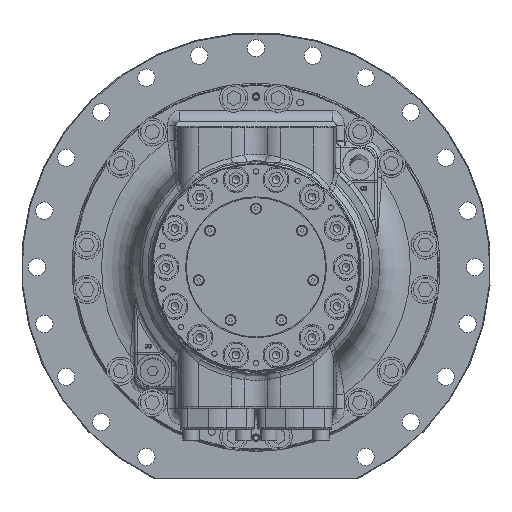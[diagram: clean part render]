
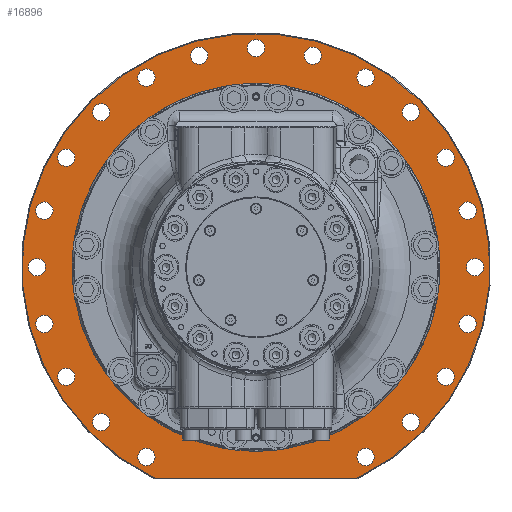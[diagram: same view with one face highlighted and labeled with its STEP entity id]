
A CAD part, left-side view. The second image highlights one B-rep face of the part: STEP entity #16896.
In plain terms, the highlighted planar face has unit normal (-1, 0, 0).
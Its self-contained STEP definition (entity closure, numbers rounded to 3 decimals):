
#10227=LINE('',#119309,#12905);
#12905=VECTOR('',#75439,1.);
#16896=ADVANCED_FACE('',(#20329,#20330,#20331,#20332,#20333,#20334,#20335,
#20336,#20337,#20338,#20339,#20340,#20341,#20342,#20343,#20344,#20345,#20346,
#20347,#20348,#20349,#20350,#20351),#18669,.F.);
#18669=PLANE('',#62187);
#20329=FACE_BOUND('',#24700,.T.);
#20330=FACE_BOUND('',#24701,.T.);
#20331=FACE_BOUND('',#24702,.T.);
#20332=FACE_BOUND('',#24703,.T.);
#20333=FACE_BOUND('',#24704,.T.);
#20334=FACE_BOUND('',#24705,.T.);
#20335=FACE_BOUND('',#24706,.T.);
#20336=FACE_BOUND('',#24707,.T.);
#20337=FACE_BOUND('',#24708,.T.);
#20338=FACE_BOUND('',#24709,.T.);
#20339=FACE_BOUND('',#24710,.T.);
#20340=FACE_BOUND('',#24711,.T.);
#20341=FACE_BOUND('',#24712,.T.);
#20342=FACE_BOUND('',#24713,.T.);
#20343=FACE_BOUND('',#24714,.T.);
#20344=FACE_BOUND('',#24715,.T.);
#20345=FACE_BOUND('',#24716,.T.);
#20346=FACE_BOUND('',#24717,.T.);
#20347=FACE_BOUND('',#24718,.T.);
#20348=FACE_BOUND('',#24719,.T.);
#20349=FACE_BOUND('',#24720,.T.);
#20350=FACE_BOUND('',#24721,.T.);
#20351=FACE_BOUND('',#24722,.T.);
#24700=EDGE_LOOP('',(#39829));
#24701=EDGE_LOOP('',(#39830));
#24702=EDGE_LOOP('',(#39831));
#24703=EDGE_LOOP('',(#39832));
#24704=EDGE_LOOP('',(#39833));
#24705=EDGE_LOOP('',(#39834));
#24706=EDGE_LOOP('',(#39835));
#24707=EDGE_LOOP('',(#39836));
#24708=EDGE_LOOP('',(#39837));
#24709=EDGE_LOOP('',(#39838));
#24710=EDGE_LOOP('',(#39839));
#24711=EDGE_LOOP('',(#39840));
#24712=EDGE_LOOP('',(#39841));
#24713=EDGE_LOOP('',(#39842));
#24714=EDGE_LOOP('',(#39843));
#24715=EDGE_LOOP('',(#39844));
#24716=EDGE_LOOP('',(#39845));
#24717=EDGE_LOOP('',(#39846));
#24718=EDGE_LOOP('',(#39847));
#24719=EDGE_LOOP('',(#39848));
#24720=EDGE_LOOP('',(#39849));
#24721=EDGE_LOOP('',(#39850));
#24722=EDGE_LOOP('',(#39851,#39852));
#39829=ORIENTED_EDGE('',*,*,#53007,.F.);
#39830=ORIENTED_EDGE('',*,*,#53006,.T.);
#39831=ORIENTED_EDGE('',*,*,#53005,.T.);
#39832=ORIENTED_EDGE('',*,*,#53004,.T.);
#39833=ORIENTED_EDGE('',*,*,#53003,.T.);
#39834=ORIENTED_EDGE('',*,*,#53002,.T.);
#39835=ORIENTED_EDGE('',*,*,#53001,.T.);
#39836=ORIENTED_EDGE('',*,*,#53000,.T.);
#39837=ORIENTED_EDGE('',*,*,#52999,.T.);
#39838=ORIENTED_EDGE('',*,*,#52998,.T.);
#39839=ORIENTED_EDGE('',*,*,#52997,.T.);
#39840=ORIENTED_EDGE('',*,*,#52996,.T.);
#39841=ORIENTED_EDGE('',*,*,#52995,.T.);
#39842=ORIENTED_EDGE('',*,*,#52994,.T.);
#39843=ORIENTED_EDGE('',*,*,#52993,.T.);
#39844=ORIENTED_EDGE('',*,*,#52992,.T.);
#39845=ORIENTED_EDGE('',*,*,#52991,.T.);
#39846=ORIENTED_EDGE('',*,*,#52990,.T.);
#39847=ORIENTED_EDGE('',*,*,#52989,.T.);
#39848=ORIENTED_EDGE('',*,*,#52988,.T.);
#39849=ORIENTED_EDGE('',*,*,#52987,.T.);
#39850=ORIENTED_EDGE('',*,*,#52986,.T.);
#39851=ORIENTED_EDGE('',*,*,#52985,.F.);
#39852=ORIENTED_EDGE('',*,*,#52984,.T.);
#45342=VERTEX_POINT('',#119301);
#45343=VERTEX_POINT('',#119306);
#45344=VERTEX_POINT('',#119312);
#45345=VERTEX_POINT('',#119315);
#45346=VERTEX_POINT('',#119318);
#45347=VERTEX_POINT('',#119321);
#45348=VERTEX_POINT('',#119324);
#45349=VERTEX_POINT('',#119327);
#45350=VERTEX_POINT('',#119330);
#45351=VERTEX_POINT('',#119333);
#45352=VERTEX_POINT('',#119336);
#45353=VERTEX_POINT('',#119339);
#45354=VERTEX_POINT('',#119342);
#45355=VERTEX_POINT('',#119345);
#45356=VERTEX_POINT('',#119348);
#45357=VERTEX_POINT('',#119351);
#45358=VERTEX_POINT('',#119354);
#45359=VERTEX_POINT('',#119357);
#45360=VERTEX_POINT('',#119360);
#45361=VERTEX_POINT('',#119363);
#45362=VERTEX_POINT('',#119366);
#45363=VERTEX_POINT('',#119369);
#45364=VERTEX_POINT('',#119372);
#45365=VERTEX_POINT('',#119375);
#52984=EDGE_CURVE('',#45342,#45343,#56848,.T.);
#52985=EDGE_CURVE('',#45342,#45343,#10227,.T.);
#52986=EDGE_CURVE('',#45344,#45344,#56849,.T.);
#52987=EDGE_CURVE('',#45345,#45345,#56850,.T.);
#52988=EDGE_CURVE('',#45346,#45346,#56851,.T.);
#52989=EDGE_CURVE('',#45347,#45347,#56852,.T.);
#52990=EDGE_CURVE('',#45348,#45348,#56853,.T.);
#52991=EDGE_CURVE('',#45349,#45349,#56854,.T.);
#52992=EDGE_CURVE('',#45350,#45350,#56855,.T.);
#52993=EDGE_CURVE('',#45351,#45351,#56856,.T.);
#52994=EDGE_CURVE('',#45352,#45352,#56857,.T.);
#52995=EDGE_CURVE('',#45353,#45353,#56858,.T.);
#52996=EDGE_CURVE('',#45354,#45354,#56859,.T.);
#52997=EDGE_CURVE('',#45355,#45355,#56860,.T.);
#52998=EDGE_CURVE('',#45356,#45356,#56861,.T.);
#52999=EDGE_CURVE('',#45357,#45357,#56862,.T.);
#53000=EDGE_CURVE('',#45358,#45358,#56863,.T.);
#53001=EDGE_CURVE('',#45359,#45359,#56864,.T.);
#53002=EDGE_CURVE('',#45360,#45360,#56865,.T.);
#53003=EDGE_CURVE('',#45361,#45361,#56866,.T.);
#53004=EDGE_CURVE('',#45362,#45362,#56867,.T.);
#53005=EDGE_CURVE('',#45363,#45363,#56868,.T.);
#53006=EDGE_CURVE('',#45364,#45364,#56869,.T.);
#53007=EDGE_CURVE('',#45365,#45365,#56870,.T.);
#56848=CIRCLE('',#62141,299.);
#56849=CIRCLE('',#62144,11.);
#56850=CIRCLE('',#62146,11.);
#56851=CIRCLE('',#62148,11.);
#56852=CIRCLE('',#62150,11.);
#56853=CIRCLE('',#62152,11.);
#56854=CIRCLE('',#62154,11.);
#56855=CIRCLE('',#62156,11.);
#56856=CIRCLE('',#62158,11.);
#56857=CIRCLE('',#62160,11.);
#56858=CIRCLE('',#62162,11.);
#56859=CIRCLE('',#62164,11.);
#56860=CIRCLE('',#62166,11.);
#56861=CIRCLE('',#62168,11.);
#56862=CIRCLE('',#62170,11.);
#56863=CIRCLE('',#62172,11.);
#56864=CIRCLE('',#62174,11.);
#56865=CIRCLE('',#62176,11.);
#56866=CIRCLE('',#62178,11.);
#56867=CIRCLE('',#62180,11.);
#56868=CIRCLE('',#62182,11.);
#56869=CIRCLE('',#62184,11.);
#56870=CIRCLE('',#62186,235.);
#62141=AXIS2_PLACEMENT_3D('',#119307,#75435,#75436);
#62144=AXIS2_PLACEMENT_3D('',#119311,#75442,#75443);
#62146=AXIS2_PLACEMENT_3D('',#119314,#75446,#75447);
#62148=AXIS2_PLACEMENT_3D('',#119317,#75450,#75451);
#62150=AXIS2_PLACEMENT_3D('',#119320,#75454,#75455);
#62152=AXIS2_PLACEMENT_3D('',#119323,#75458,#75459);
#62154=AXIS2_PLACEMENT_3D('',#119326,#75462,#75463);
#62156=AXIS2_PLACEMENT_3D('',#119329,#75466,#75467);
#62158=AXIS2_PLACEMENT_3D('',#119332,#75470,#75471);
#62160=AXIS2_PLACEMENT_3D('',#119335,#75474,#75475);
#62162=AXIS2_PLACEMENT_3D('',#119338,#75478,#75479);
#62164=AXIS2_PLACEMENT_3D('',#119341,#75482,#75483);
#62166=AXIS2_PLACEMENT_3D('',#119344,#75486,#75487);
#62168=AXIS2_PLACEMENT_3D('',#119347,#75490,#75491);
#62170=AXIS2_PLACEMENT_3D('',#119350,#75494,#75495);
#62172=AXIS2_PLACEMENT_3D('',#119353,#75498,#75499);
#62174=AXIS2_PLACEMENT_3D('',#119356,#75502,#75503);
#62176=AXIS2_PLACEMENT_3D('',#119359,#75506,#75507);
#62178=AXIS2_PLACEMENT_3D('',#119362,#75510,#75511);
#62180=AXIS2_PLACEMENT_3D('',#119365,#75514,#75515);
#62182=AXIS2_PLACEMENT_3D('',#119368,#75518,#75519);
#62184=AXIS2_PLACEMENT_3D('',#119371,#75522,#75523);
#62186=AXIS2_PLACEMENT_3D('',#119374,#75526,#75527);
#62187=AXIS2_PLACEMENT_3D('',#119376,#75528,#75529);
#75435=DIRECTION('',(-1.,0.,0.));
#75436=DIRECTION('',(0.,0.,-1.));
#75439=DIRECTION('',(0.,1.,0.));
#75442=DIRECTION('',(1.,0.,0.));
#75443=DIRECTION('',(0.,0.,-1.));
#75446=DIRECTION('',(1.,0.,0.));
#75447=DIRECTION('',(0.,0.,-1.));
#75450=DIRECTION('',(1.,0.,0.));
#75451=DIRECTION('',(0.,0.,-1.));
#75454=DIRECTION('',(1.,0.,0.));
#75455=DIRECTION('',(0.,0.,-1.));
#75458=DIRECTION('',(1.,0.,0.));
#75459=DIRECTION('',(0.,0.,-1.));
#75462=DIRECTION('',(1.,0.,0.));
#75463=DIRECTION('',(0.,0.,-1.));
#75466=DIRECTION('',(1.,0.,0.));
#75467=DIRECTION('',(0.,0.,-1.));
#75470=DIRECTION('',(1.,0.,0.));
#75471=DIRECTION('',(0.,0.,-1.));
#75474=DIRECTION('',(1.,0.,0.));
#75475=DIRECTION('',(0.,0.,-1.));
#75478=DIRECTION('',(1.,0.,0.));
#75479=DIRECTION('',(0.,0.,-1.));
#75482=DIRECTION('',(1.,0.,0.));
#75483=DIRECTION('',(0.,0.,-1.));
#75486=DIRECTION('',(1.,0.,0.));
#75487=DIRECTION('',(0.,0.,-1.));
#75490=DIRECTION('',(1.,0.,0.));
#75491=DIRECTION('',(0.,0.,-1.));
#75494=DIRECTION('',(1.,0.,0.));
#75495=DIRECTION('',(0.,0.,-1.));
#75498=DIRECTION('',(1.,0.,0.));
#75499=DIRECTION('',(0.,0.,-1.));
#75502=DIRECTION('',(1.,0.,0.));
#75503=DIRECTION('',(0.,0.,-1.));
#75506=DIRECTION('',(1.,0.,0.));
#75507=DIRECTION('',(0.,0.,-1.));
#75510=DIRECTION('',(1.,0.,0.));
#75511=DIRECTION('',(0.,0.,-1.));
#75514=DIRECTION('',(1.,0.,0.));
#75515=DIRECTION('',(0.,0.,-1.));
#75518=DIRECTION('',(1.,0.,0.));
#75519=DIRECTION('',(0.,0.,-1.));
#75522=DIRECTION('',(1.,0.,0.));
#75523=DIRECTION('',(0.,0.,-1.));
#75526=DIRECTION('',(-1.,0.,0.));
#75527=DIRECTION('',(0.,0.,1.));
#75528=DIRECTION('',(1.,0.,0.));
#75529=DIRECTION('',(0.,0.,-1.));
#119301=CARTESIAN_POINT('',(57.,-128.456,-270.));
#119306=CARTESIAN_POINT('',(57.,128.456,-270.));
#119307=CARTESIAN_POINT('',(57.,0.,0.));
#119309=CARTESIAN_POINT('',(57.,0.,-270.));
#119311=CARTESIAN_POINT('',(57.,72.469,270.459));
#119312=CARTESIAN_POINT('',(57.,72.469,259.459));
#119314=CARTESIAN_POINT('',(57.,140.,242.487));
#119315=CARTESIAN_POINT('',(57.,140.,231.487));
#119317=CARTESIAN_POINT('',(57.,197.99,197.99));
#119318=CARTESIAN_POINT('',(57.,197.99,186.99));
#119320=CARTESIAN_POINT('',(57.,242.487,140.));
#119321=CARTESIAN_POINT('',(57.,242.487,129.));
#119323=CARTESIAN_POINT('',(57.,270.459,72.469));
#119324=CARTESIAN_POINT('',(57.,270.459,61.469));
#119326=CARTESIAN_POINT('',(57.,280.,0.));
#119327=CARTESIAN_POINT('',(57.,280.,-11.));
#119329=CARTESIAN_POINT('',(57.,270.459,-72.469));
#119330=CARTESIAN_POINT('',(57.,270.459,-83.469));
#119332=CARTESIAN_POINT('',(57.,242.487,-140.));
#119333=CARTESIAN_POINT('',(57.,242.487,-151.));
#119335=CARTESIAN_POINT('',(57.,197.99,-197.99));
#119336=CARTESIAN_POINT('',(57.,197.99,-208.99));
#119338=CARTESIAN_POINT('',(57.,140.,-242.487));
#119339=CARTESIAN_POINT('',(57.,140.,-253.487));
#119341=CARTESIAN_POINT('',(57.,-140.,-242.487));
#119342=CARTESIAN_POINT('',(57.,-140.,-253.487));
#119344=CARTESIAN_POINT('',(57.,-197.99,-197.99));
#119345=CARTESIAN_POINT('',(57.,-197.99,-208.99));
#119347=CARTESIAN_POINT('',(57.,-242.487,-140.));
#119348=CARTESIAN_POINT('',(57.,-242.487,-151.));
#119350=CARTESIAN_POINT('',(57.,-270.459,-72.469));
#119351=CARTESIAN_POINT('',(57.,-270.459,-83.469));
#119353=CARTESIAN_POINT('',(57.,-280.,0.));
#119354=CARTESIAN_POINT('',(57.,-280.,-11.));
#119356=CARTESIAN_POINT('',(57.,-270.459,72.469));
#119357=CARTESIAN_POINT('',(57.,-270.459,61.469));
#119359=CARTESIAN_POINT('',(57.,-242.487,140.));
#119360=CARTESIAN_POINT('',(57.,-242.487,129.));
#119362=CARTESIAN_POINT('',(57.,-197.99,197.99));
#119363=CARTESIAN_POINT('',(57.,-197.99,186.99));
#119365=CARTESIAN_POINT('',(57.,-140.,242.487));
#119366=CARTESIAN_POINT('',(57.,-140.,231.487));
#119368=CARTESIAN_POINT('',(57.,-72.469,270.459));
#119369=CARTESIAN_POINT('',(57.,-72.469,259.459));
#119371=CARTESIAN_POINT('',(57.,0.,280.));
#119372=CARTESIAN_POINT('',(57.,0.,269.));
#119374=CARTESIAN_POINT('',(57.,0.,0.));
#119375=CARTESIAN_POINT('',(57.,0.,235.));
#119376=CARTESIAN_POINT('',(57.,0.,300.));
